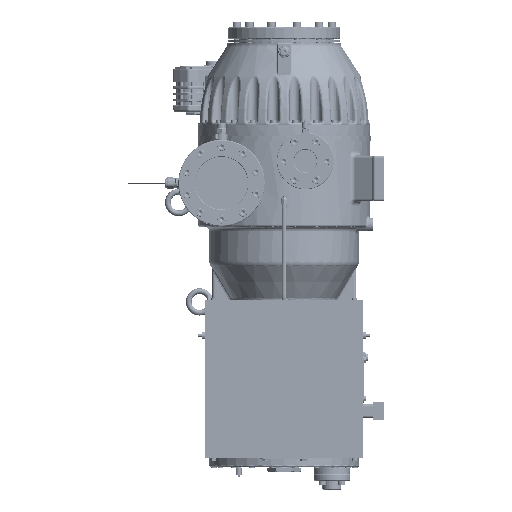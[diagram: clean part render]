
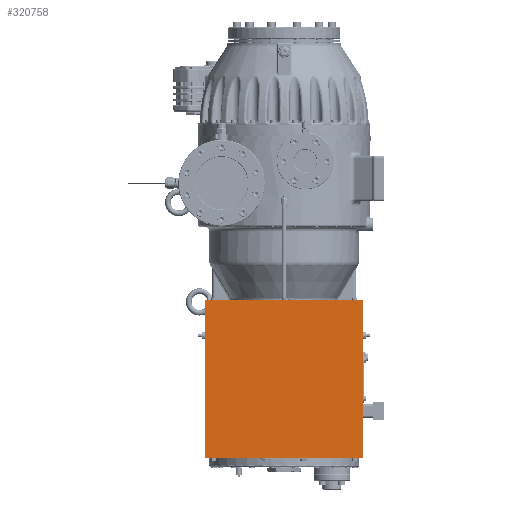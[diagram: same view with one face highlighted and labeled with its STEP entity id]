
A CAD part, left-side view. The second image highlights one B-rep face of the part: STEP entity #320758.
In plain terms, the highlighted planar face has unit normal (-1, 0, 0).
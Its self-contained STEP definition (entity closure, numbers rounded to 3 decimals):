
#10485=PLANE('',#340157);
#19094=FACE_OUTER_BOUND('',#38082,.T.);
#38082=EDGE_LOOP('',(#219105,#219106,#219107,#219108));
#81421=LINE('',#483577,#108217);
#81425=LINE('',#483586,#108221);
#81439=LINE('',#483620,#108235);
#81440=LINE('',#483622,#108236);
#108217=VECTOR('',#364337,10.);
#108221=VECTOR('',#364343,10.);
#108235=VECTOR('',#364377,10.);
#108236=VECTOR('',#364380,10.);
#135221=VERTEX_POINT('',#483575);
#135222=VERTEX_POINT('',#483576);
#135225=VERTEX_POINT('',#483584);
#135226=VERTEX_POINT('',#483585);
#168227=EDGE_CURVE('',#135221,#135222,#81421,.T.);
#168231=EDGE_CURVE('',#135225,#135226,#81425,.T.);
#168249=EDGE_CURVE('',#135226,#135221,#81439,.T.);
#168250=EDGE_CURVE('',#135222,#135225,#81440,.T.);
#219105=ORIENTED_EDGE('',*,*,#168231,.F.);
#219106=ORIENTED_EDGE('',*,*,#168250,.F.);
#219107=ORIENTED_EDGE('',*,*,#168227,.F.);
#219108=ORIENTED_EDGE('',*,*,#168249,.F.);
#320758=ADVANCED_FACE('',(#19094),#10485,.T.);
#340157=AXIS2_PLACEMENT_3D('',#483623,#364381,#364382);
#364337=DIRECTION('',(0.,-1.,0.));
#364343=DIRECTION('',(0.,1.,0.));
#364377=DIRECTION('',(0.,0.,1.));
#364380=DIRECTION('',(0.,0.,-1.));
#364381=DIRECTION('center_axis',(-1.,0.,0.));
#364382=DIRECTION('ref_axis',(0.,0.,1.));
#483575=CARTESIAN_POINT('',(-421.5,173.5,-296.5));
#483576=CARTESIAN_POINT('',(-421.5,-173.5,-296.5));
#483577=CARTESIAN_POINT('',(-421.5,173.5,-296.5));
#483584=CARTESIAN_POINT('',(-421.5,-173.5,-643.5));
#483585=CARTESIAN_POINT('',(-421.5,173.5,-643.5));
#483586=CARTESIAN_POINT('',(-421.5,-173.5,-643.5));
#483620=CARTESIAN_POINT('',(-421.5,173.5,-643.5));
#483622=CARTESIAN_POINT('',(-421.5,-173.5,-296.5));
#483623=CARTESIAN_POINT('Origin',(-421.5,-173.5,-470.));
